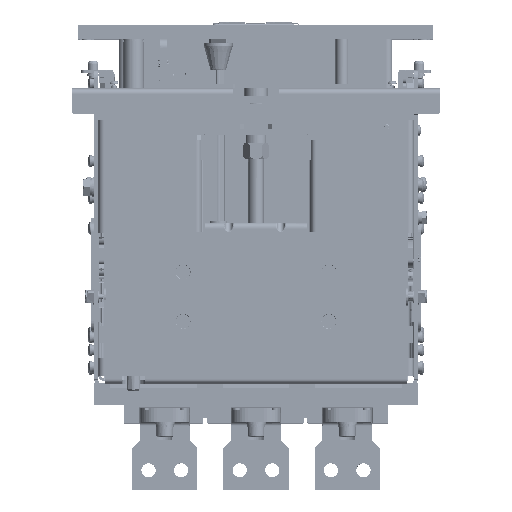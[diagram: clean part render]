
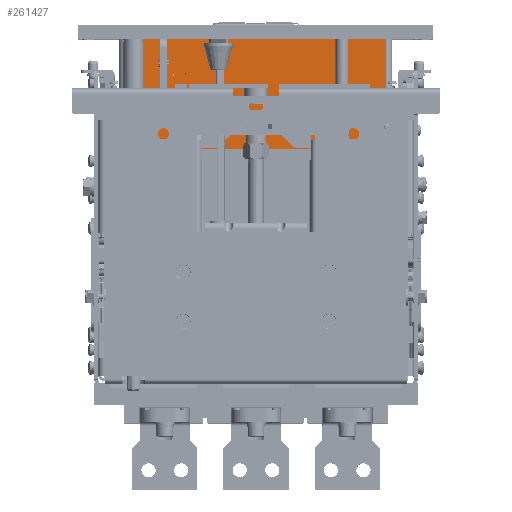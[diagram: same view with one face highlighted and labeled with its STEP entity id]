
A CAD part, top view. The second image highlights one B-rep face of the part: STEP entity #261427.
In plain terms, the highlighted planar face has unit normal (0, 0, 1) as drawn and (0, -1, 0) by its records, which use the part's own axes.
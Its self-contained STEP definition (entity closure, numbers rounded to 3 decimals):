
#43613 = DIRECTION ( 'NONE',  ( 0., 0., 1. ) ) ;
#63522 = VERTEX_POINT ( 'NONE', #89281 ) ;
#66115 = LINE ( 'NONE', #192445, #314445 ) ;
#69751 = CARTESIAN_POINT ( 'NONE',  ( -5.5, -200.625, 346.511 ) ) ;
#85692 = DIRECTION ( 'NONE',  ( 0., -1., 0. ) ) ;
#89281 = CARTESIAN_POINT ( 'NONE',  ( -5.5, -200.625, 346.511 ) ) ;
#106837 = LINE ( 'NONE', #451899, #189098 ) ;
#113776 = LINE ( 'NONE', #445064, #359828 ) ;
#117547 = EDGE_CURVE ( 'NONE', #384161, #219529, #66115, .T. ) ;
#162761 = CARTESIAN_POINT ( 'NONE',  ( 194.5, -200.625, 261.361 ) ) ;
#167161 = FACE_OUTER_BOUND ( 'NONE', #448192, .T. ) ;
#175721 = AXIS2_PLACEMENT_3D ( 'NONE', #467290, #85692, #43613 ) ;
#177003 = EDGE_CURVE ( 'NONE', #384161, #310688, #106837, .T. ) ;
#181352 = DIRECTION ( 'NONE',  ( 0., 0., 1. ) ) ;
#189098 = VECTOR ( 'NONE', #209704, 1000. ) ;
#192445 = CARTESIAN_POINT ( 'NONE',  ( 194.5, -200.625, 261.361 ) ) ;
#193687 = ORIENTED_EDGE ( 'NONE', *, *, #117547, .T. ) ;
#209704 = DIRECTION ( 'NONE',  ( -1., 0., 0. ) ) ;
#219529 = VERTEX_POINT ( 'NONE', #474101 ) ;
#240933 = DIRECTION ( 'NONE',  ( 0., 0., -1. ) ) ;
#261427 = ADVANCED_FACE ( 'NONE', ( #167161 ), #391452, .T. ) ;
#270415 = EDGE_CURVE ( 'NONE', #63522, #219529, #113776, .T. ) ;
#279774 = ORIENTED_EDGE ( 'NONE', *, *, #270415, .F. ) ;
#282961 = LINE ( 'NONE', #69751, #421171 ) ;
#310688 = VERTEX_POINT ( 'NONE', #471595 ) ;
#314445 = VECTOR ( 'NONE', #181352, 1000. ) ;
#318749 = DIRECTION ( 'NONE',  ( 1., 0., 0. ) ) ;
#359828 = VECTOR ( 'NONE', #318749, 1000. ) ;
#372150 = EDGE_CURVE ( 'NONE', #63522, #310688, #282961, .T. ) ;
#384161 = VERTEX_POINT ( 'NONE', #162761 ) ;
#391452 = PLANE ( 'NONE',  #175721 ) ;
#415149 = ORIENTED_EDGE ( 'NONE', *, *, #372150, .T. ) ;
#421171 = VECTOR ( 'NONE', #240933, 1000. ) ;
#445064 = CARTESIAN_POINT ( 'NONE',  ( -5.5, -200.625, 346.511 ) ) ;
#448192 = EDGE_LOOP ( 'NONE', ( #415149, #451083, #193687, #279774 ) ) ;
#451083 = ORIENTED_EDGE ( 'NONE', *, *, #177003, .F. ) ;
#451899 = CARTESIAN_POINT ( 'NONE',  ( 194.5, -200.625, 261.361 ) ) ;
#467290 = CARTESIAN_POINT ( 'NONE',  ( -10.5, -200.625, 344.611 ) ) ;
#471595 = CARTESIAN_POINT ( 'NONE',  ( -5.5, -200.625, 261.361 ) ) ;
#474101 = CARTESIAN_POINT ( 'NONE',  ( 194.5, -200.625, 346.511 ) ) ;
